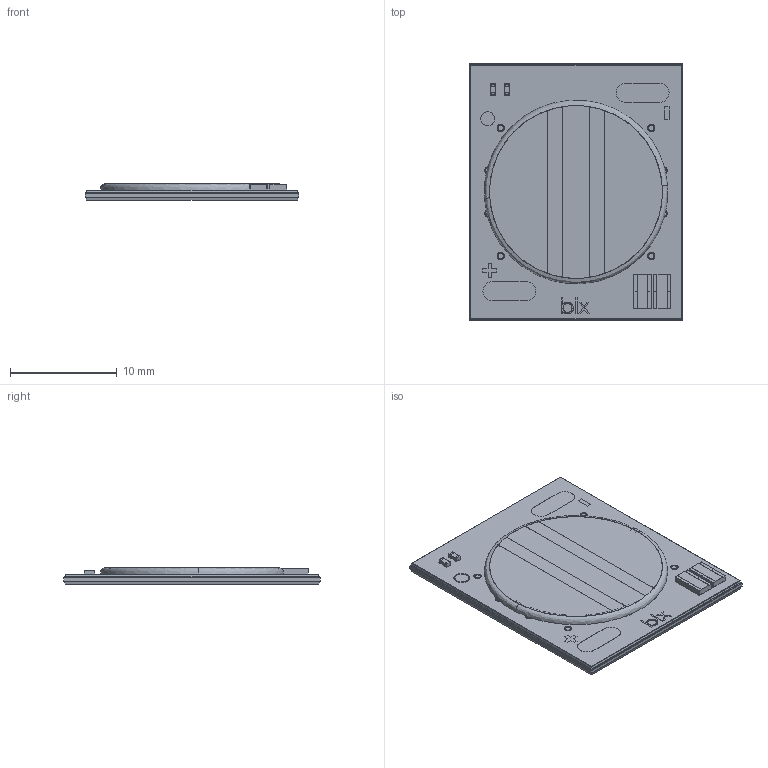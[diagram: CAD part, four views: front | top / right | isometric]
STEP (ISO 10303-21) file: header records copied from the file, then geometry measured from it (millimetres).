
FILE_DESCRIPTION (( 'STEP AP214' ), '1' );
FILE_NAME ('15-000613 Single Unit.STEP', '2017-07-06T23:37:22', ( '' ), ( '' ), 'SwSTEP 2.0', 'SolidWorks 2017', '' );
FILE_SCHEMA (( 'AUTOMOTIVE_DESIGN' ));
Length unit declared in the file: millimetre
Products named in the file (2): 15-000613 Single Unit
Bounding box: 20 x 24 x 1.56 mm (x, y, z)
Volume: 573.3 mm3; surface area: 3526.6 mm2
Topology: 64 solids, 64 shells, 761 faces, 1782 edges, 1163 vertices
Faces by surface type: plane 556, cylinder 191, bspline 14
Entity records: 31022 total; most frequent: CARTESIAN_POINT 4224, DIRECTION 3609, ORIENTED_EDGE 3564, EDGE_CURVE 1782, VECTOR 1353, LINE 1353, VERTEX_POINT 1163, AXIS2_PLACEMENT_3D 1128
